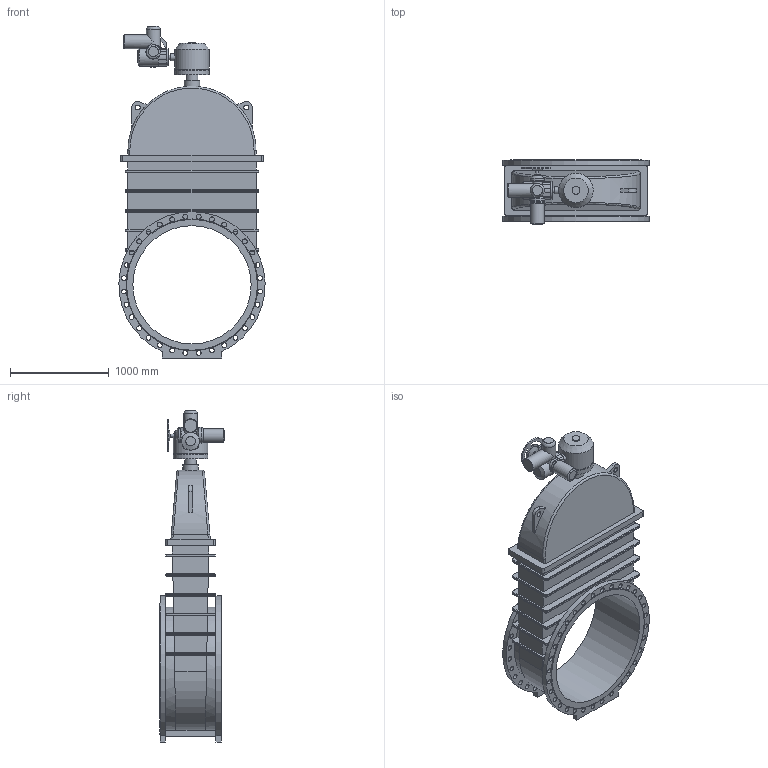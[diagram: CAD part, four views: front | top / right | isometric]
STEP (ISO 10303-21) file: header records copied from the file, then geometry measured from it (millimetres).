
FILE_DESCRIPTION(('STEP AP203'), '1');
FILE_NAME('Çàäâèæêà 47GV.Z DN1200 PN16 + ðåäóêòîð+ÌÒ903.À30', '', ('UNSPECIFIED'), ('UNSPECIFIED'), 'ASCON STEP Converter 1.6', 'ASCON Math Kernel', '');
FILE_SCHEMA(('CONFIG_CONTROL_DESIGN'));
Length unit declared in the file: millimetre
Bounding box: 1483.95 x 659 x 3369.5 mm (x, y, z)
Volume: 858242417.3 mm3; surface area: 15743001.2 mm2
Topology: 1 solids, 1 shells, 432 faces, 1080 edges, 684 vertices
Faces by surface type: cylinder 208, plane 163, bspline 48, cone 12, torus 1
Full cylindrical faces by diameter (mm): 14 x4, 18 x4, 32 x1, 49 x64, 50 x3, 60 x1, 70 x1, 80 x1, 100 x1, 120 x1, 140 x4, 147 x1, 151 x1, 160 x1, 175 x1, 330 x1, 350 x2, 1200 x1
Entity records: 21898 total; most frequent: CARTESIAN_POINT 8590, ORIENTED_EDGE 1950, DIRECTION 1908, EDGE_CURVE 975, AXIS2_PLACEMENT_3D 733, EDGE_LOOP 711, VERTEX_POINT 684, FACE_BOUND 506
